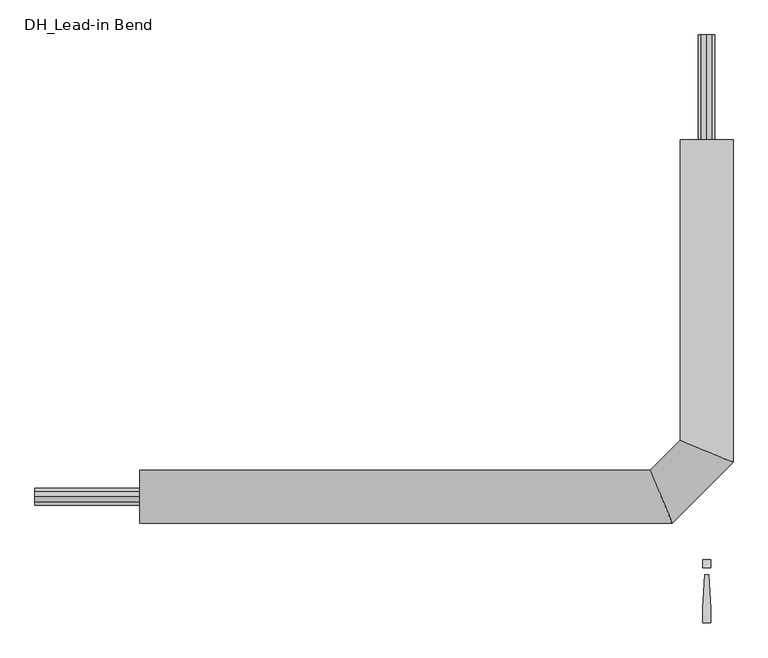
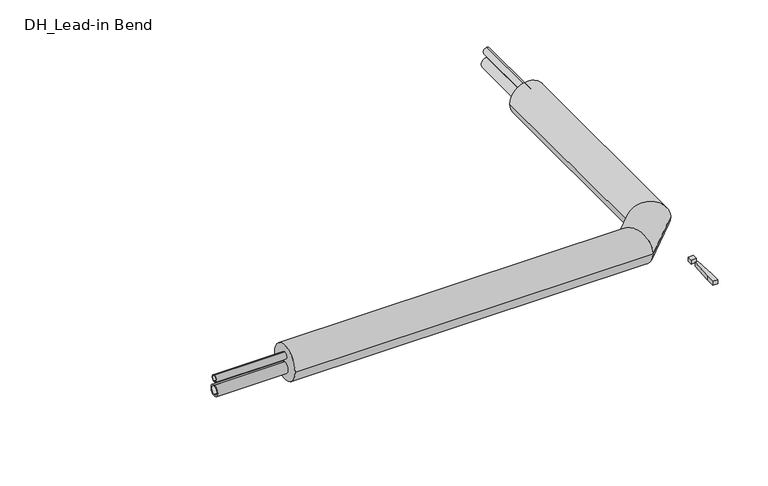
"""IFC4 building model written with IfcOpenShell, lengths in millimetres: pipe fitting geometry, DH_Lead-in Bend : RVT/RVX/RTX DUO 7.4 DW Horizontal."""

from ifc_helpers import new_model, si_unit, point, frame, frame_2d, origin, origin_with_axes, place, context, project, spatial, polyline, circle_curve, ellipse_curve, trimmed, segment, composite_curve, outline, extrude, source, transform, mapped, element, save
from ifc_brep_helpers import plane_surface, cylinder_surface, advanced_brep


def dh_lead_in_bend_6df17b34(model_context):
    return source(origin(), model_context, "Body", "SolidModel", [
        extrude(outline(composite_curve([segment(trimmed(circle_curve(frame_2d((0.0, -18.5)), 20.0), [point((0.0, 1.5))], [point((0.0, -38.5))], False, "CARTESIAN"), True, "CONTINUOUS"), segment(trimmed(circle_curve(frame_2d((0.0, -18.5)), 20.0), [point((0.0, -38.5))], [point((0.0, 1.5))], False, "CARTESIAN"), True, "CONTINUOUS")], self_intersect=False), holes=[composite_curve([segment(trimmed(circle_curve(frame_2d((0.0, -18.5)), 14.5), [point((0.0, -4.0))], [point((0.0, -33.0))], True, "CARTESIAN"), True, "CONTINUOUS"), segment(trimmed(circle_curve(frame_2d((0.0, -18.5)), 14.5), [point((0.0, -33.0))], [point((0.0, -4.0))], True, "CARTESIAN"), True, "CONTINUOUS")], self_intersect=False)]), frame((-1600.0, 0.0, 0.0), z_axis=(1.0, 0.0, 0.0), x_axis=(0.0, 1.0, 0.0)), (0.0, 0.0, 1.0), 250.0),
        advanced_brep(
        [(-1350.0, -63.0, 0.0), (-1350.0, 63.0, 0.0), (-82.2045456, -63.0, 0.0), (-134.3954544, 63.0, 0.0), (63.0, 850.0, 0.0), (-63.0, 850.0, 0.0), (-63.0, 134.3954544, 0.0), (63.0, 82.2045456, 0.0)],
        [
            (0, 1, circle_curve(frame((-1350.0, 0.0, 0.0), z_axis=(-1.0, 0.0, 0.0), x_axis=(0.0, 1.0, 0.0)), 63.0)),
            (1, 0, circle_curve(frame((-1350.0, 0.0, 0.0), z_axis=(-1.0, 0.0, 0.0), x_axis=(0.0, 1.0, 0.0)), 63.0)),
            (0, 2),
            (2, 3, ellipse_curve(frame((-108.3, 0.0, 0.0), z_axis=(-0.9238795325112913, -0.3826834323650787, 0.0), x_axis=(-0.3826834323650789, 0.9238795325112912, 0.0)), 68.1907086, 63.0)),
            (3, 1),
            (3, 2, ellipse_curve(frame((-108.3, 0.0, 0.0), z_axis=(-0.9238795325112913, -0.3826834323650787, 0.0), x_axis=(-0.3826834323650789, 0.9238795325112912, 0.0)), 68.1907086, 63.0)),
            (4, 5, circle_curve(frame((0.0, 850.0, 0.0), z_axis=(0.0, 1.0, 0.0), x_axis=(-1.0, 0.0, 0.0)), 63.0)),
            (5, 4, circle_curve(frame((0.0, 850.0, 0.0), z_axis=(0.0, 1.0, 0.0), x_axis=(-1.0, 0.0, 0.0)), 63.0)),
            (6, 7, ellipse_curve(frame((0.0, 108.3, 0.0), z_axis=(0.3826834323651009, 0.9238795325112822, 0.0), x_axis=(0.9238795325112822, -0.3826834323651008, 0.0)), 68.1907086, 63.0)),
            (7, 4),
            (5, 6),
            (7, 6, ellipse_curve(frame((0.0, 108.3, 0.0), z_axis=(0.3826834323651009, 0.9238795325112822, 0.0), x_axis=(0.9238795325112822, -0.3826834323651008, 0.0)), 68.1907086, 63.0)),
            (2, 7),
            (6, 3),
        ],
        [
            plane_surface(frame((-1350.0, 0.0, 0.0), z_axis=(-1.0, 0.0, 0.0), x_axis=(0.0, 0.0, 1.0))),
            cylinder_surface(frame((-1350.0, 0.0, 0.0), z_axis=(-1.0, 0.0, 0.0), x_axis=(0.0, 1.0, 0.0)), 63.0),
            plane_surface(frame((0.0, 850.0, 0.0), z_axis=(0.0, 1.0, 0.0), x_axis=(0.0, 0.0, 1.0))),
            cylinder_surface(frame((0.0, 108.3, 0.0), z_axis=(0.0, -1.0, 0.0), x_axis=(-1.0, 0.0, 0.0)), 63.0),
            cylinder_surface(frame((-108.3, 0.0, 0.0), z_axis=(-0.7071067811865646, -0.7071067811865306, 0.0), x_axis=(-0.7071067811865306, 0.7071067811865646, 0.0)), 63.0),
        ],
        [
            (0, [[1, 2]]),
            (1, [[-1, 3, 4, 5]]),
            (1, [[-2, -5, 6, -3]]),
            (2, [[7, 8]]),
            (3, [[9, 10, -8, 11]]),
            (3, [[12, -11, -7, -10]]),
            (4, [[-4, 13, -9, 14]]),
            (4, [[-6, -14, -12, -13]]),
        ],
    ),
        extrude(outline(composite_curve([segment(trimmed(circle_curve(frame_2d((26.0, 0.0)), 12.5), [point((13.5, 0.0))], [point((38.5, 0.0))], False, "CARTESIAN"), True, "CONTINUOUS"), segment(trimmed(circle_curve(frame_2d((26.0, 0.0)), 12.5), [point((38.5, 0.0))], [point((13.5, 0.0))], False, "CARTESIAN"), True, "CONTINUOUS")], self_intersect=False), holes=[composite_curve([segment(trimmed(circle_curve(frame_2d((26.0, 0.0)), 9.0), [point((17.0, 0.0))], [point((35.0, 0.0))], True, "CARTESIAN"), True, "CONTINUOUS"), segment(trimmed(circle_curve(frame_2d((26.0, 0.0)), 9.0), [point((35.0, 0.0))], [point((17.0, 0.0))], True, "CARTESIAN"), True, "CONTINUOUS")], self_intersect=False)]), frame((0.0, 850.0, 0.0), z_axis=(0.0, 1.0, 0.0), x_axis=(0.0, 0.0, 1.0)), (0.0, 0.0, 1.0), 250.0),
        extrude(outline(composite_curve([segment(trimmed(circle_curve(frame_2d((0.0, 26.0)), 12.5), [point((0.0, 13.5))], [point((0.0, 38.5))], False, "CARTESIAN"), True, "CONTINUOUS"), segment(trimmed(circle_curve(frame_2d((0.0, 26.0)), 12.5), [point((0.0, 38.5))], [point((0.0, 13.5))], False, "CARTESIAN"), True, "CONTINUOUS")], self_intersect=False), holes=[composite_curve([segment(trimmed(circle_curve(frame_2d((0.0, 26.0)), 9.0), [point((0.0, 17.0))], [point((0.0, 35.0))], True, "CARTESIAN"), True, "CONTINUOUS"), segment(trimmed(circle_curve(frame_2d((0.0, 26.0)), 9.0), [point((0.0, 35.0))], [point((0.0, 17.0))], True, "CARTESIAN"), True, "CONTINUOUS")], self_intersect=False)]), frame((-1600.0, 0.0, 0.0), z_axis=(1.0, 0.0, 0.0), x_axis=(0.0, 1.0, 0.0)), (0.0, 0.0, 1.0), 250.0),
        extrude(outline(composite_curve([segment(trimmed(circle_curve(frame_2d((-18.5, 0.0)), 20.0), [point((1.5, 0.0))], [point((-38.5, 0.0))], False, "CARTESIAN"), True, "CONTINUOUS"), segment(trimmed(circle_curve(frame_2d((-18.5, 0.0)), 20.0), [point((-38.5, 0.0))], [point((1.5, 0.0))], False, "CARTESIAN"), True, "CONTINUOUS")], self_intersect=False), holes=[composite_curve([segment(trimmed(circle_curve(frame_2d((-18.5, 0.0)), 14.5), [point((-4.0, 0.0))], [point((-33.0, 0.0))], True, "CARTESIAN"), True, "CONTINUOUS"), segment(trimmed(circle_curve(frame_2d((-18.5, 0.0)), 14.5), [point((-33.0, 0.0))], [point((-4.0, 0.0))], True, "CARTESIAN"), True, "CONTINUOUS")], self_intersect=False)]), frame((0.0, 850.0, 0.0), z_axis=(0.0, 1.0, 0.0), x_axis=(0.0, 0.0, 1.0)), (0.0, 0.0, 1.0), 250.0),
        extrude(outline(polyline([(4.7088895, -185.3166715), (9.4177791, -266.6553807), (9.4177791, -300.6844652), (-9.4177791, -300.6844652), (-9.4177791, -266.6553807), (-4.7088895, -185.3166715), (4.7088895, -185.3166715)])), origin_with_axes(), (0.0, 0.0, 1.0), 15.0),
        extrude(outline(polyline([(9.4177791, -150.0), (9.4177791, -168.8355582), (-9.4177791, -168.8355582), (-9.4177791, -150.0), (9.4177791, -150.0)])), origin_with_axes(), (0.0, 0.0, 1.0), 15.0),
    ])


if __name__ == "__main__":
    model = new_model("IFC4")
    model_context = context("Model", 3, world=origin())
    ifc_project = project(units=[si_unit("LENGTHUNIT", "METRE", prefix="MILLI")], contexts=[model_context])
    site = spatial("IfcSite", under=ifc_project)
    building = spatial("IfcBuilding", under=site)
    placement = place(None, origin())
    dh_lead_in_bend_shape = dh_lead_in_bend_6df17b34(model_context)
    element("IfcPipeFitting", 1, ObjectType="DH_Lead-in Bend : RVT/RVX/RTX DUO 7.4 DW Horizontal", at=placement, inside=building, context=model_context, shape_type="MappedRepresentation", body=[
        mapped(dh_lead_in_bend_shape, transform((0.0, 0.0, 0.0), x_axis=(1.0, 0.0, 0.0), y_axis=(0.0, 1.0, 0.0), z_axis=(0.0, 0.0, 1.0))),
    ])
    save(model, "model.ifc")
